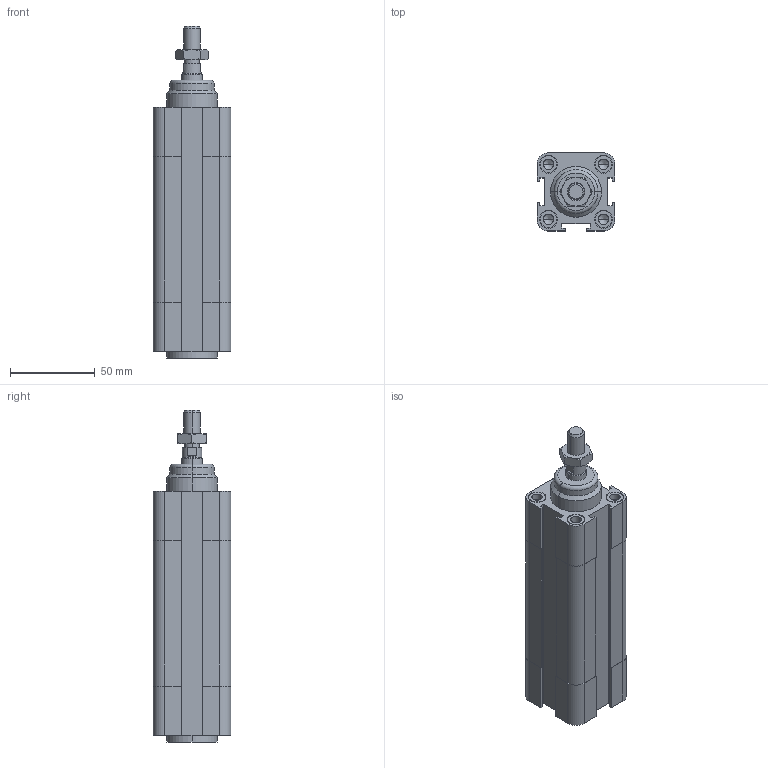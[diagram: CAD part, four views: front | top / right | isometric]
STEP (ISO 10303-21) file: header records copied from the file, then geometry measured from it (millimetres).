
FILE_DESCRIPTION((''),'2;1');
FILE_NAME('F:\Lib-3d\1380\CIL\1380_32_0050_01.stp','2004-01-07T15:57:14',('maffial1'),(''),'Autodesk Inventor 8','Autodesk Inventor 8','');
FILE_SCHEMA(('AUTOMOTIVE_DESIGN { 1 0 10303 214 1 1 1 1 }'));
Length unit declared in the file: millimetre
Products named in the file (4): 1380_32_0050_01; CPP01_32_50; CPP02_32_50; 1320_32_18F
Assembly tree (3 placements, depth 2):
  1380_32_0050_01
    CPP01_32_50
    CPP02_32_50
    1320_32_18F
Bounding box: 46 x 46 x 196 mm (x, y, z)
Volume: 279835.6 mm3; surface area: 50012.3 mm2
Topology: 3 solids, 3 shells, 244 faces, 570 edges, 356 vertices
Faces by surface type: plane 83, bspline 67, cylinder 58, cone 34, torus 2
Entity records: 7668 total; most frequent: CARTESIAN_POINT 2166, DIRECTION 1136, ORIENTED_EDGE 1108, EDGE_CURVE 554, AXIS2_PLACEMENT_3D 422, VERTEX_POINT 356, VECTOR 292, LINE 292
